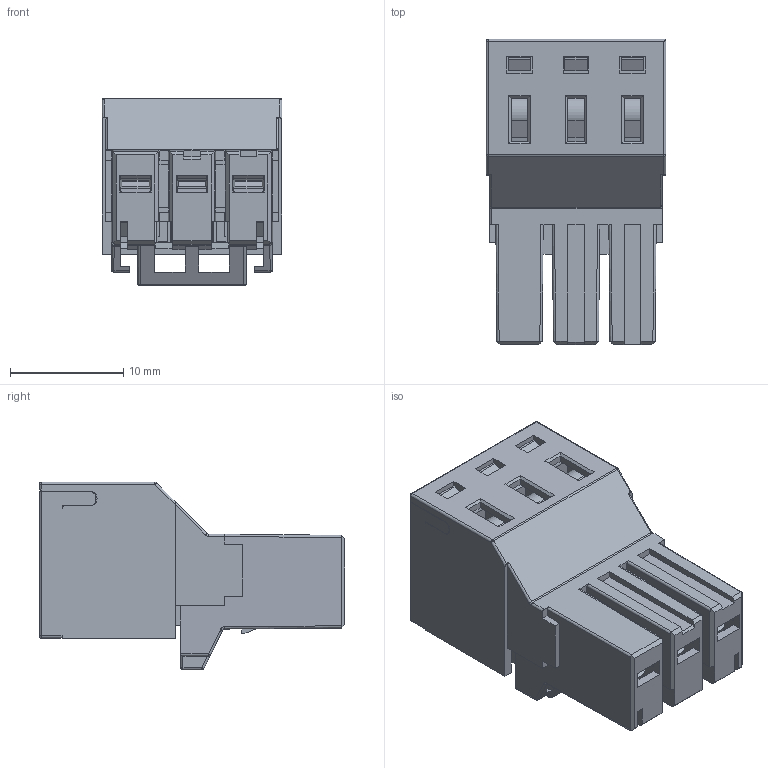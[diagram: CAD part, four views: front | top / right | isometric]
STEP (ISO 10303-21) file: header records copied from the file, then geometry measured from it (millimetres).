
FILE_DESCRIPTION((''),'2;1');
FILE_NAME('PLUG-HO-500-3P_ASM','2022-06-28T',('renkang.li'),(''),'CREO PARAMETRIC BY PTC INC, 2016260','CREO PARAMETRIC BY PTC INC, 2016260','');
FILE_SCHEMA(('CONFIG_CONTROL_DESIGN'));
Length unit declared in the file: millimetre
Products named in the file (1): PLUG-HO-500-3P_ASM
Bounding box: 15.9 x 27 x 16.6 mm (x, y, z)
Volume: 2371.2 mm3; surface area: 6770.9 mm2
Topology: 4 solids, 4 shells, 1061 faces, 2856 edges, 1788 vertices
Faces by surface type: plane 783, cylinder 251, bspline 11, sphere 11, cone 4, torus 1
Entity records: 33260 total; most frequent: CARTESIAN_POINT 6465, ORIENTED_EDGE 5708, DIRECTION 5399, EDGE_CURVE 2854, VECTOR 2279, LINE 2279, VERTEX_POINT 1788, AXIS2_PLACEMENT_3D 1560
